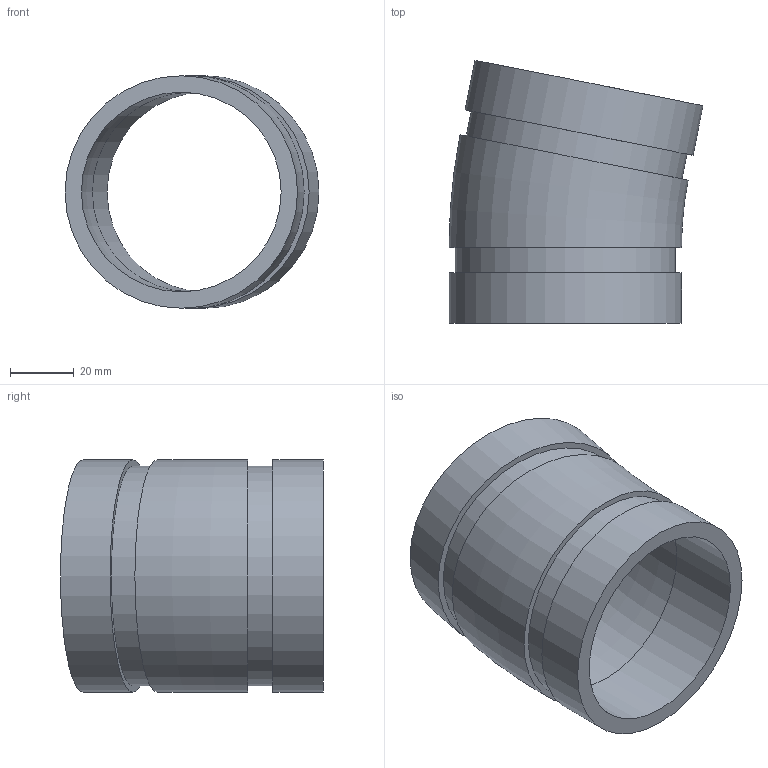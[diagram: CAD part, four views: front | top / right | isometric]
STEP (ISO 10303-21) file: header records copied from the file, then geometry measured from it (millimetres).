
FILE_DESCRIPTION(/* description */ ('VIC 11-1/4 DEG. ELBOW No 13','CAx-IF Rec.Pracs.---Representation and Presentation of Product Manufacturing Information (PMI)---4.0---2014-10-13'),/* implementation_level */ '2;1');
FILE_NAME(/* name */ 'C:\Users\kkamble\AppData\Roaming\Autodesk\ApplicationPlugins\Back Up\Victaulic_IPS_Elbow 11.25 Deg_No 13 (OGS)\Victaulic_IPS_Elbow 11.25 Deg_No 13 (OGS)_2.5 (65).stp',/* time_stamp */ '2020-07-24T08:08:55+06:00',/* author */ ('CONSTRUCTION PIPING SERVICES'),/* organization */ ('Victaulic'),/* preprocessor_version */ 'ST-DEVELOPER v17.2',/* originating_system */ 'Autodesk Inventor 2019',/* authorisation */ '');
FILE_SCHEMA (('AP242_MANAGED_MODEL_BASED_3D_ENGINEERING_MIM_LF { 1 0 10303 442 1 1 4 }'));
Length unit declared in the file: inch
Products named in the file (1): 013-02.5
Bounding box: 79.76 x 82.59 x 73.03 mm (x, y, z)
Volume: 76685.1 mm3; surface area: 36214.8 mm2
Topology: 1 solids, 1 shells, 14 faces, 32 edges, 24 vertices
Faces by surface type: plane 6, cylinder 6, torus 2
Full cylindrical faces by diameter (mm): 62.713 x2, 69.088 x2, 73.025 x2
Entity records: 487 total; most frequent: DIRECTION 88, CARTESIAN_POINT 71, ORIENTED_EDGE 64, AXIS2_PLACEMENT_3D 41, EDGE_CURVE 32, CIRCLE 26, VERTEX_POINT 24, EDGE_LOOP 20
